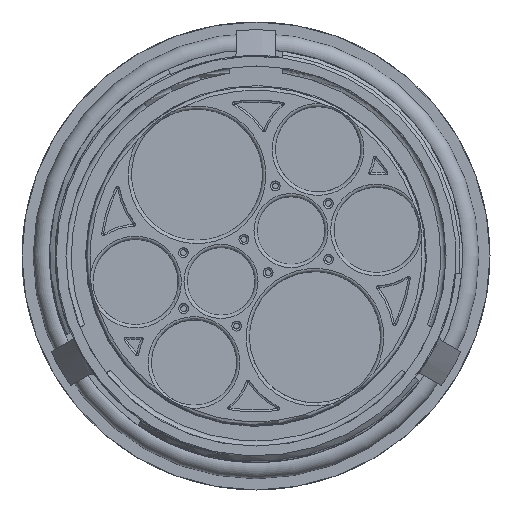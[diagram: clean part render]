
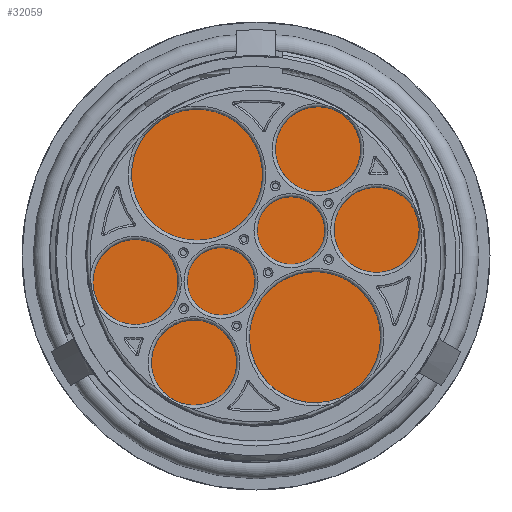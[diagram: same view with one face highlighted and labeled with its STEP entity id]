
A CAD part, front view. The second image highlights one B-rep face of the part: STEP entity #32059.
In plain terms, the highlighted planar face has unit normal (0, -1, 0).
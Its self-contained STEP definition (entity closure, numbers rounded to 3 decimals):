
#864=PLANE('',#34853);
#1890=FACE_BOUND('',#9076,.T.);
#1891=FACE_BOUND('',#9077,.T.);
#1892=FACE_BOUND('',#9078,.T.);
#6997=FACE_OUTER_BOUND('',#9075,.T.);
#9075=EDGE_LOOP('',(#25100));
#9076=EDGE_LOOP('',(#25101));
#9077=EDGE_LOOP('',(#25102));
#9078=EDGE_LOOP('',(#25103));
#12496=CIRCLE('',#34841,1.9);
#12498=CIRCLE('',#34844,1.9);
#12500=CIRCLE('',#34847,1.9);
#12503=CIRCLE('',#34851,29.5);
#14523=VERTEX_POINT('',#57028);
#14525=VERTEX_POINT('',#57033);
#14527=VERTEX_POINT('',#57038);
#14530=VERTEX_POINT('',#57045);
#18335=EDGE_CURVE('',#14523,#14523,#12496,.T.);
#18337=EDGE_CURVE('',#14525,#14525,#12498,.T.);
#18339=EDGE_CURVE('',#14527,#14527,#12500,.T.);
#18342=EDGE_CURVE('',#14530,#14530,#12503,.T.);
#25100=ORIENTED_EDGE('',*,*,#18342,.F.);
#25101=ORIENTED_EDGE('',*,*,#18335,.T.);
#25102=ORIENTED_EDGE('',*,*,#18337,.T.);
#25103=ORIENTED_EDGE('',*,*,#18339,.T.);
#32059=ADVANCED_FACE('',(#6997,#1890,#1891,#1892),#864,.T.);
#34841=AXIS2_PLACEMENT_3D('',#57029,#39958,#39959);
#34844=AXIS2_PLACEMENT_3D('',#57034,#39964,#39965);
#34847=AXIS2_PLACEMENT_3D('',#57039,#39970,#39971);
#34851=AXIS2_PLACEMENT_3D('',#57046,#39978,#39979);
#34853=AXIS2_PLACEMENT_3D('',#57048,#39982,#39983);
#39958=DIRECTION('center_axis',(0.,1.,0.));
#39959=DIRECTION('ref_axis',(-1.,0.,0.));
#39964=DIRECTION('center_axis',(0.,1.,0.));
#39965=DIRECTION('ref_axis',(-1.,0.,0.));
#39970=DIRECTION('center_axis',(0.,1.,0.));
#39971=DIRECTION('ref_axis',(-1.,0.,0.));
#39978=DIRECTION('center_axis',(0.,1.,0.));
#39979=DIRECTION('ref_axis',(-1.,0.,0.));
#39982=DIRECTION('center_axis',(0.,-1.,0.));
#39983=DIRECTION('ref_axis',(0.,0.,-1.));
#57028=CARTESIAN_POINT('',(2.764,-1.2,23.559));
#57029=CARTESIAN_POINT('Origin',(0.864,-1.2,23.559));
#57033=CARTESIAN_POINT('',(24.573,-1.2,-6.459));
#57034=CARTESIAN_POINT('Origin',(22.673,-1.2,-6.459));
#57038=CARTESIAN_POINT('',(-20.773,-1.2,6.459));
#57039=CARTESIAN_POINT('Origin',(-22.673,-1.2,6.459));
#57045=CARTESIAN_POINT('',(-29.5,-1.2,0.));
#57046=CARTESIAN_POINT('Origin',(0.,-1.2,0.));
#57048=CARTESIAN_POINT('Origin',(-14.75,-1.2,0.));
